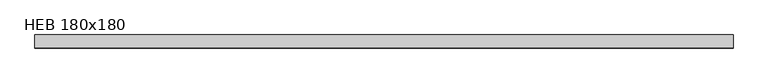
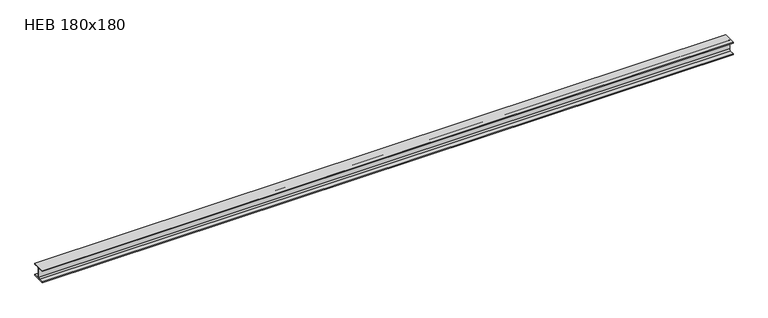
"""IFC4 building model written with IfcOpenShell, lengths in millimetres: beam geometry, M_HP-Bearing Pile : HEB 180x180."""

from ifc_helpers import new_model, si_unit, point, frame, frame_2d, origin, place, context, project, spatial, polyline, circle_curve, trimmed, segment, composite_curve, outline, extrude, source, transform, mapped, element, save


def heb_180x180_c49aca14(model_context):
    return source(origin(), model_context, "Body", "SweptSolid", [
        extrude(outline(composite_curve([segment(polyline([(-90.0, -76.9), (-25.45, -76.9)]), True, "CONTINUOUS"), segment(trimmed(circle_curve(frame_2d((-25.45, -58.0)), 18.9), [point((-25.45, -76.9))], [point((-6.55, -58.0))], True, "CARTESIAN"), True, "CONTINUOUS"), segment(polyline([(-6.55, -58.0), (-6.55, 58.0)]), True, "CONTINUOUS"), segment(trimmed(circle_curve(frame_2d((-25.45, 58.0)), 18.9), [point((-6.55, 58.0))], [point((-25.45, 76.9))], True, "CARTESIAN"), True, "CONTINUOUS"), segment(polyline([(-25.45, 76.9), (-90.0, 76.9), (-90.0, 90.0), (90.0, 90.0), (90.0, 76.9), (25.45, 76.9)]), True, "CONTINUOUS"), segment(trimmed(circle_curve(frame_2d((25.45, 58.0)), 18.9), [point((25.45, 76.9))], [point((6.55, 58.0))], True, "CARTESIAN"), True, "CONTINUOUS"), segment(polyline([(6.55, 58.0), (6.55, -58.0)]), True, "CONTINUOUS"), segment(trimmed(circle_curve(frame_2d((25.45, -58.0)), 18.9), [point((6.55, -58.0))], [point((25.45, -76.9))], True, "CARTESIAN"), True, "CONTINUOUS"), segment(polyline([(25.45, -76.9), (90.0, -76.9), (90.0, -90.0), (-90.0, -90.0), (-90.0, -76.9)]), True, "CONTINUOUS")], self_intersect=False)), frame((-4725.890407, 0.0, 0.0), z_axis=(1.0, 0.0, 0.0), x_axis=(0.0, 1.0, 0.0)), (0.0, 0.0, 1.0), 9600.8902715),
    ])


if __name__ == "__main__":
    model = new_model("IFC4")
    model_context = context("Model", 3, world=origin())
    ifc_project = project(units=[si_unit("LENGTHUNIT", "METRE", prefix="MILLI")], contexts=[model_context])
    site = spatial("IfcSite", under=ifc_project)
    building = spatial("IfcBuilding", under=site)
    placement = place(None, origin())
    heb_180x180_shape = heb_180x180_c49aca14(model_context)
    element("IfcBeam", 1, ObjectType="M_HP-Bearing Pile : HEB 180x180", at=placement, inside=building, context=model_context, shape_type="MappedRepresentation", body=[
        mapped(heb_180x180_shape, transform((0.0, 0.0, 0.0), x_axis=(1.0, 0.0, 0.0), y_axis=(0.0, 1.0, 0.0), z_axis=(0.0, 0.0, 1.0))),
    ])
    save(model, "model.ifc")
